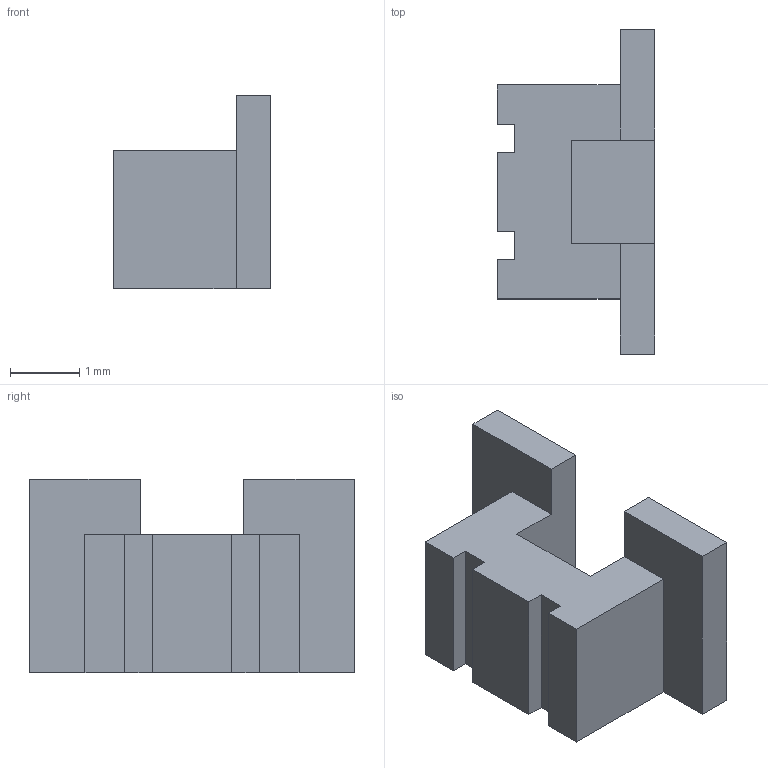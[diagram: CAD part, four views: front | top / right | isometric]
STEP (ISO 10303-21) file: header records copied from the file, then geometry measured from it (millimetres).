
FILE_DESCRIPTION(('Open CASCADE Model'),'2;1');
FILE_NAME('Open CASCADE Shape Model','2026-10-31T23:32:29',('Author'),( 'Open CASCADE'),'Open CASCADE STEP processor 7.7','Open CASCADE 7.7' ,'Unknown');
FILE_SCHEMA(('AUTOMOTIVE_DESIGN { 1 0 10303 214 1 1 1 1 }'));
Length unit declared in the file: millimetre
Products named in the file (1): SOLID
Bounding box: 2.28 x 4.7 x 2.8 mm (x, y, z)
Volume: 14.1 mm3; surface area: 55.3 mm2
Topology: 1 solids, 1 shells, 24 faces, 66 edges, 44 vertices
Faces by surface type: plane 24
Entity records: 1558 total; most frequent: CARTESIAN_POINT 327, DIRECTION 188, LINE 138, VECTOR 138, ORIENTED_EDGE 132, PCURVE 132, DEFINITIONAL_REPRESENTATION 132, EDGE_CURVE 66
